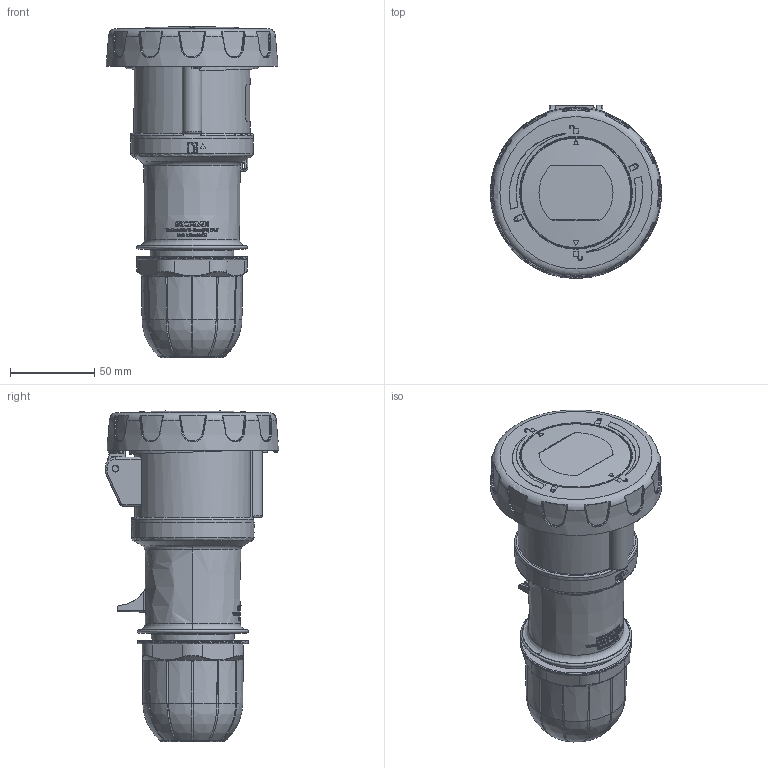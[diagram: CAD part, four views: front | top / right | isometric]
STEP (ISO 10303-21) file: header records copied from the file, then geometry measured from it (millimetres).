
FILE_DESCRIPTION(/* description */ (''),/* implementation_level */ '2;1');
FILE_NAME(/* name */ '4002148.stp',/* time_stamp */ '2021-01-26T08:14:06+01:00',/* author */ (''),/* organization */ (''),/* preprocessor_version */ 'ST-DEVELOPER v16.7',/* originating_system */ 'SIEMENS PLM Software NX 1946',/* authorisation */ '');
FILE_SCHEMA (('AUTOMOTIVE_DESIGN { 1 0 10303 214 3 1 1 1 }'));
Length unit declared in the file: millimetre
Products named in the file (1): BSOM2F4CE3B9j6gt
Bounding box: 102 x 103 x 196.75 mm (x, y, z)
Volume: 228794.2 mm3; surface area: 202725.4 mm2
Topology: 11 solids, 12 shells, 4565 faces, 11862 edges, 7368 vertices
Faces by surface type: plane 1401, bspline 895, cylinder 838, torus 478, extrusion 453, cone 349, sphere 151
Full cylindrical faces by diameter (mm): 1.1 x4, 3.2 x2, 3.5 x1, 4 x3, 4.503 x1, 5 x1, 5.14 x1, 5.7 x2, 5.8 x1, 6 x2, 16 x1, 19.5 x1, 41.6 x1, 47.6 x1, 52.1 x4, 52.5 x1, 54.2 x1, 54.8 x1, 63.2 x1, 66 x2, 73 x1
Entity records: 192732 total; most frequent: CARTESIAN_POINT 92320, ORIENTED_EDGE 22760, DIRECTION 17545, EDGE_CURVE 11380, VERTEX_POINT 7289, AXIS2_PLACEMENT_3D 6794, EDGE_LOOP 5053, B_SPLINE_CURVE_WITH_KNOTS 4743
